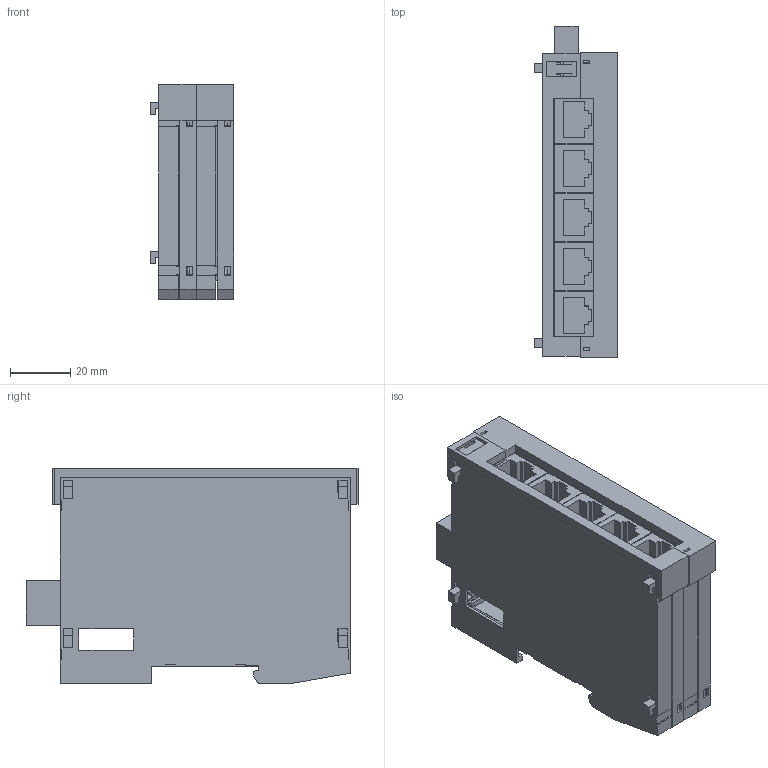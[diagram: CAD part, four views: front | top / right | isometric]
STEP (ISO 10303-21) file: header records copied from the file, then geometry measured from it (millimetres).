
FILE_DESCRIPTION (( 'STEP AP214' ), '1' );
FILE_NAME ('SE051 support.STEP', '2015-07-06T12:22:59', ( 'SIGMATEK GmbH & Co KG' ), ( 'SIGMATEK GmbH & Co KG' ), 'SwSTEP 2.0', 'SolidWorks 2013', '' );
FILE_SCHEMA (( 'AUTOMOTIVE_DESIGN' ));
Length unit declared in the file: millimetre
Products named in the file (12): Schieber_f Suport; Vereinfachtes S-Dias Doppelmodul Gehäuse; LP_SE051; S-Dias Doppelmodul Schale links_f Suport; SE051 support; Abdeckung Blau SE051 Dummy f Support; Dummy_4110251205 4pol.Minicombicon-Grundgehäuse RM3,5 1937512; S-Dias Schale rechts_f Suport; Dummy_4110262104 4pol.Federkraftstecker f.2reih 1952283; S-Dias Schale links_f Suport; S-Dias Doppelmodul Schale rechts_f Suport; Dummy_4080225208 RJ45 Ethernet Buchse90 SMD
Assembly tree (15 placements, depth 3):
  SE051 support
    S-Dias Doppelmodul Schale rechts_f Suport
    S-Dias Schale links_f Suport
    Vereinfachtes S-Dias Doppelmodul Gehäuse
      S-Dias Schale rechts_f Suport
      S-Dias Doppelmodul Schale links_f Suport
    Schieber_f Suport
    Abdeckung Blau SE051 Dummy f Support
    LP_SE051
      Dummy_4110251205 4pol.Minicombicon-Grundgehäuse RM3,5 1937512
      Dummy_4110262104 4pol.Federkraftstecker f.2reih 1952283
      Dummy_4080225208 RJ45 Ethernet Buchse90 SMD  x5
Bounding box: 27.8 x 110.65 x 71.75 mm (x, y, z)
Volume: 41815.4 mm3; surface area: 60458.3 mm2
Topology: 13 solids, 13 shells, 1086 faces, 2995 edges, 1958 vertices
Faces by surface type: plane 908, cylinder 104, cone 58, torus 16
Entity records: 29154 total; most frequent: CARTESIAN_POINT 5225, ORIENTED_EDGE 5062, DIRECTION 4553, EDGE_CURVE 2531, LINE 2285, VECTOR 2285, VERTEX_POINT 1654, AXIS2_PLACEMENT_3D 1134
